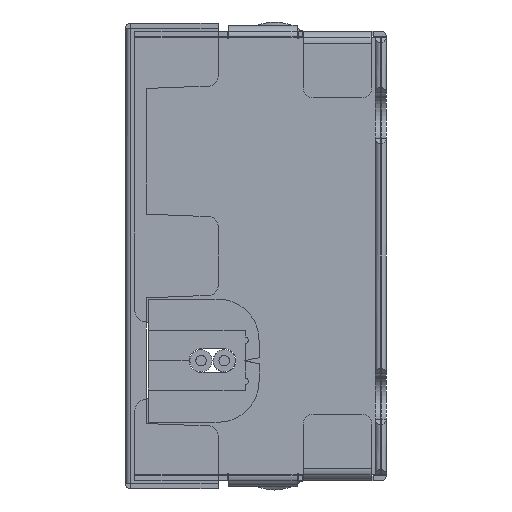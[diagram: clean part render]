
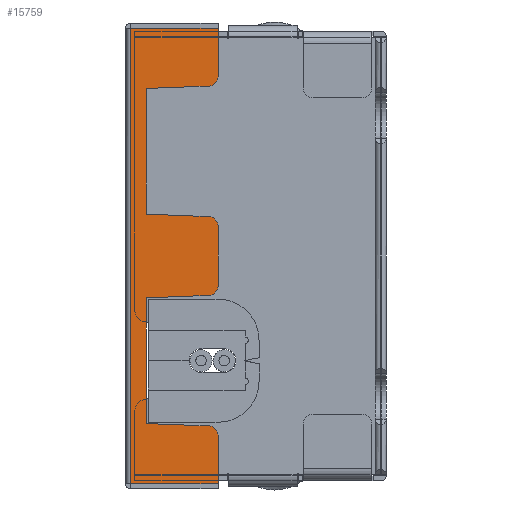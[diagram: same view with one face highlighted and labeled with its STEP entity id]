
A CAD part, left-side view. The second image highlights one B-rep face of the part: STEP entity #15759.
In plain terms, the highlighted planar face has unit normal (-1, 0, 0).
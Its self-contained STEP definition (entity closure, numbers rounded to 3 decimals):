
#118 = CARTESIAN_POINT ( 'NONE',  ( -65., -1.5, 16.325 ) ) ;
#163 = CARTESIAN_POINT ( 'NONE',  ( -65., 0., -22.19 ) ) ;
#193 = LINE ( 'NONE', #118, #9800 ) ;
#222 = CARTESIAN_POINT ( 'NONE',  ( -65., -7.6, -2.94 ) ) ;
#250 = EDGE_CURVE ( 'NONE', #1263, #6579, #13066, .T. ) ;
#320 = DIRECTION ( 'NONE',  ( 0., -1., 0. ) ) ;
#358 = VECTOR ( 'NONE', #14178, 1000. ) ;
#903 = LINE ( 'NONE', #18760, #4394 ) ;
#1164 = VERTEX_POINT ( 'NONE', #2114 ) ;
#1263 = VERTEX_POINT ( 'NONE', #6658 ) ;
#1335 = CARTESIAN_POINT ( 'NONE',  ( -65., -8.5, -16.594 ) ) ;
#1357 = EDGE_CURVE ( 'NONE', #10243, #7400, #16984, .T. ) ;
#1449 = FACE_OUTER_BOUND ( 'NONE', #2269, .T. ) ;
#1450 = VERTEX_POINT ( 'NONE', #12163 ) ;
#1810 = VERTEX_POINT ( 'NONE', #5177 ) ;
#1934 = ORIENTED_EDGE ( 'NONE', *, *, #8707, .F. ) ;
#2111 = EDGE_CURVE ( 'NONE', #1164, #12128, #15833, .T. ) ;
#2114 = CARTESIAN_POINT ( 'NONE',  ( -65., -1.5, -4.075 ) ) ;
#2269 = EDGE_LOOP ( 'NONE', ( #13811, #6960, #9625, #13231, #3160, #9803, #4980, #18654, #5874, #14359, #13467, #5141, #1934, #9274, #17188, #9558 ) ) ;
#2539 = EDGE_CURVE ( 'NONE', #11016, #16271, #4090, .T. ) ;
#2667 = CARTESIAN_POINT ( 'NONE',  ( -65., -7.6, -17.46 ) ) ;
#2841 = DIRECTION ( 'NONE',  ( 0., -0.999, -0.038 ) ) ;
#3160 = ORIENTED_EDGE ( 'NONE', *, *, #8025, .T. ) ;
#3483 = CARTESIAN_POINT ( 'NONE',  ( -65., -8.5, 22.19 ) ) ;
#3671 = VECTOR ( 'NONE', #5304, 1000. ) ;
#3984 = VECTOR ( 'NONE', #320, 1000. ) ;
#3985 = VECTOR ( 'NONE', #18362, 1000. ) ;
#4090 = CIRCLE ( 'NONE', #12274, 0.9 ) ;
#4202 = VECTOR ( 'NONE', #13203, 1000. ) ;
#4217 = VERTEX_POINT ( 'NONE', #13137 ) ;
#4307 = CARTESIAN_POINT ( 'NONE',  ( -65., -7.635, -16.561 ) ) ;
#4394 = VECTOR ( 'NONE', #17204, 1000. ) ;
#4471 = EDGE_CURVE ( 'NONE', #10664, #4217, #14326, .T. ) ;
#4585 = DIRECTION ( 'NONE',  ( 0., -1., 0. ) ) ;
#4980 = ORIENTED_EDGE ( 'NONE', *, *, #14085, .F. ) ;
#5141 = ORIENTED_EDGE ( 'NONE', *, *, #2539, .T. ) ;
#5177 = CARTESIAN_POINT ( 'NONE',  ( -65., -0.01, -22.19 ) ) ;
#5246 = LINE ( 'NONE', #6732, #358 ) ;
#5304 = DIRECTION ( 'NONE',  ( 0., 0.999, -0.038 ) ) ;
#5515 = DIRECTION ( 'NONE',  ( 0., -1., 0. ) ) ;
#5874 = ORIENTED_EDGE ( 'NONE', *, *, #18436, .T. ) ;
#5934 = EDGE_CURVE ( 'NONE', #11016, #1450, #903, .T. ) ;
#5958 = VECTOR ( 'NONE', #15008, 1000. ) ;
#6012 = EDGE_CURVE ( 'NONE', #6993, #8989, #193, .T. ) ;
#6579 = VERTEX_POINT ( 'NONE', #14811 ) ;
#6658 = CARTESIAN_POINT ( 'NONE',  ( -65., -7.635, 16.561 ) ) ;
#6732 = CARTESIAN_POINT ( 'NONE',  ( -65., -8.5, -22.19 ) ) ;
#6899 = CARTESIAN_POINT ( 'NONE',  ( -65., -7.6, 17.46 ) ) ;
#6960 = ORIENTED_EDGE ( 'NONE', *, *, #15940, .T. ) ;
#6993 = VERTEX_POINT ( 'NONE', #12959 ) ;
#6998 = LINE ( 'NONE', #16255, #4202 ) ;
#7046 = CARTESIAN_POINT ( 'NONE',  ( -65., -7.635, 3.839 ) ) ;
#7400 = VERTEX_POINT ( 'NONE', #12738 ) ;
#7406 = CARTESIAN_POINT ( 'NONE',  ( -65., -8.5, 2.94 ) ) ;
#7609 = VERTEX_POINT ( 'NONE', #7046 ) ;
#7982 = CIRCLE ( 'NONE', #17601, 0.9 ) ;
#8025 = EDGE_CURVE ( 'NONE', #8989, #1263, #13678, .T. ) ;
#8118 = CARTESIAN_POINT ( 'NONE',  ( -65., -1.5, -4.075 ) ) ;
#8528 = DIRECTION ( 'NONE',  ( 0., 0., -1. ) ) ;
#8543 = DIRECTION ( 'NONE',  ( -1., 0., 0. ) ) ;
#8707 = EDGE_CURVE ( 'NONE', #12128, #16271, #11781, .T. ) ;
#8864 = LINE ( 'NONE', #13724, #14073 ) ;
#8908 = CARTESIAN_POINT ( 'NONE',  ( -65., -7.635, -3.839 ) ) ;
#8989 = VERTEX_POINT ( 'NONE', #11090 ) ;
#9232 = DIRECTION ( 'NONE',  ( 0., -1., 0. ) ) ;
#9274 = ORIENTED_EDGE ( 'NONE', *, *, #2111, .F. ) ;
#9294 = CARTESIAN_POINT ( 'NONE',  ( -65., -0.01, 22.19 ) ) ;
#9558 = ORIENTED_EDGE ( 'NONE', *, *, #1357, .T. ) ;
#9587 = AXIS2_PLACEMENT_3D ( 'NONE', #6899, #8543, #18958 ) ;
#9625 = ORIENTED_EDGE ( 'NONE', *, *, #10266, .T. ) ;
#9800 = VECTOR ( 'NONE', #16470, 1000. ) ;
#9803 = ORIENTED_EDGE ( 'NONE', *, *, #250, .T. ) ;
#10057 = DIRECTION ( 'NONE',  ( 0., -0.999, 0.038 ) ) ;
#10125 = CARTESIAN_POINT ( 'NONE',  ( -65., -7.6, 2.94 ) ) ;
#10184 = EDGE_CURVE ( 'NONE', #18616, #7400, #8864, .T. ) ;
#10243 = VERTEX_POINT ( 'NONE', #8908 ) ;
#10266 = EDGE_CURVE ( 'NONE', #7609, #6993, #6998, .T. ) ;
#10664 = VERTEX_POINT ( 'NONE', #9294 ) ;
#10957 = AXIS2_PLACEMENT_3D ( 'NONE', #163, #16576, #9232 ) ;
#11016 = VERTEX_POINT ( 'NONE', #18221 ) ;
#11090 = CARTESIAN_POINT ( 'NONE',  ( -65., -1.5, 16.325 ) ) ;
#11666 = CARTESIAN_POINT ( 'NONE',  ( -65., -1.5, -16.325 ) ) ;
#11781 = LINE ( 'NONE', #1335, #13182 ) ;
#12048 = CARTESIAN_POINT ( 'NONE',  ( -65., -1.5, -16.325 ) ) ;
#12128 = VERTEX_POINT ( 'NONE', #11666 ) ;
#12163 = CARTESIAN_POINT ( 'NONE',  ( -65., -8.5, -22.19 ) ) ;
#12274 = AXIS2_PLACEMENT_3D ( 'NONE', #2667, #18952, #5515 ) ;
#12738 = CARTESIAN_POINT ( 'NONE',  ( -65., -8.5, -2.94 ) ) ;
#12959 = CARTESIAN_POINT ( 'NONE',  ( -65., -1.5, 4.075 ) ) ;
#13012 = CARTESIAN_POINT ( 'NONE',  ( -65., -0.01, -22.19 ) ) ;
#13066 = CIRCLE ( 'NONE', #9587, 0.9 ) ;
#13137 = CARTESIAN_POINT ( 'NONE',  ( -65., -8.5, 22.19 ) ) ;
#13182 = VECTOR ( 'NONE', #2841, 1000. ) ;
#13203 = DIRECTION ( 'NONE',  ( 0., 0.999, 0.038 ) ) ;
#13231 = ORIENTED_EDGE ( 'NONE', *, *, #6012, .T. ) ;
#13284 = DIRECTION ( 'NONE',  ( 0., -1., 0. ) ) ;
#13431 = VECTOR ( 'NONE', #10057, 1000. ) ;
#13467 = ORIENTED_EDGE ( 'NONE', *, *, #5934, .F. ) ;
#13525 = VECTOR ( 'NONE', #8528, 1000. ) ;
#13678 = LINE ( 'NONE', #14333, #13431 ) ;
#13724 = CARTESIAN_POINT ( 'NONE',  ( -65., -8.5, -22.19 ) ) ;
#13811 = ORIENTED_EDGE ( 'NONE', *, *, #10184, .F. ) ;
#14025 = LINE ( 'NONE', #13012, #13525 ) ;
#14073 = VECTOR ( 'NONE', #15249, 1000. ) ;
#14085 = EDGE_CURVE ( 'NONE', #4217, #6579, #5246, .T. ) ;
#14178 = DIRECTION ( 'NONE',  ( 0., 0., -1. ) ) ;
#14326 = LINE ( 'NONE', #3483, #3984 ) ;
#14333 = CARTESIAN_POINT ( 'NONE',  ( -65., -8.5, 16.594 ) ) ;
#14359 = ORIENTED_EDGE ( 'NONE', *, *, #16376, .F. ) ;
#14811 = CARTESIAN_POINT ( 'NONE',  ( -65., -8.5, 17.46 ) ) ;
#15008 = DIRECTION ( 'NONE',  ( 0., 0., -1. ) ) ;
#15236 = PLANE ( 'NONE',  #10957 ) ;
#15249 = DIRECTION ( 'NONE',  ( 0., 0., -1. ) ) ;
#15654 = LINE ( 'NONE', #8118, #3671 ) ;
#15759 = ADVANCED_FACE ( 'NONE', ( #1449 ), #15236, .T. ) ;
#15833 = LINE ( 'NONE', #12048, #5958 ) ;
#15940 = EDGE_CURVE ( 'NONE', #18616, #7609, #7982, .T. ) ;
#16255 = CARTESIAN_POINT ( 'NONE',  ( -65., -1.5, 4.075 ) ) ;
#16271 = VERTEX_POINT ( 'NONE', #4307 ) ;
#16376 = EDGE_CURVE ( 'NONE', #1450, #1810, #17357, .T. ) ;
#16470 = DIRECTION ( 'NONE',  ( 0., 0., 1. ) ) ;
#16576 = DIRECTION ( 'NONE',  ( -1., 0., 0. ) ) ;
#16984 = CIRCLE ( 'NONE', #17393, 0.9 ) ;
#17188 = ORIENTED_EDGE ( 'NONE', *, *, #18866, .F. ) ;
#17204 = DIRECTION ( 'NONE',  ( 0., 0., -1. ) ) ;
#17357 = LINE ( 'NONE', #17685, #3985 ) ;
#17393 = AXIS2_PLACEMENT_3D ( 'NONE', #222, #18132, #4585 ) ;
#17601 = AXIS2_PLACEMENT_3D ( 'NONE', #10125, #19158, #13284 ) ;
#17685 = CARTESIAN_POINT ( 'NONE',  ( -65., 0., -22.19 ) ) ;
#18132 = DIRECTION ( 'NONE',  ( -1., 0., 0. ) ) ;
#18221 = CARTESIAN_POINT ( 'NONE',  ( -65., -8.5, -17.46 ) ) ;
#18362 = DIRECTION ( 'NONE',  ( 0., 1., 0. ) ) ;
#18436 = EDGE_CURVE ( 'NONE', #10664, #1810, #14025, .T. ) ;
#18616 = VERTEX_POINT ( 'NONE', #7406 ) ;
#18654 = ORIENTED_EDGE ( 'NONE', *, *, #4471, .F. ) ;
#18760 = CARTESIAN_POINT ( 'NONE',  ( -65., -8.5, -22.19 ) ) ;
#18866 = EDGE_CURVE ( 'NONE', #10243, #1164, #15654, .T. ) ;
#18952 = DIRECTION ( 'NONE',  ( -1., 0., 0. ) ) ;
#18958 = DIRECTION ( 'NONE',  ( 0., -1., 0. ) ) ;
#19158 = DIRECTION ( 'NONE',  ( -1., 0., 0. ) ) ;
